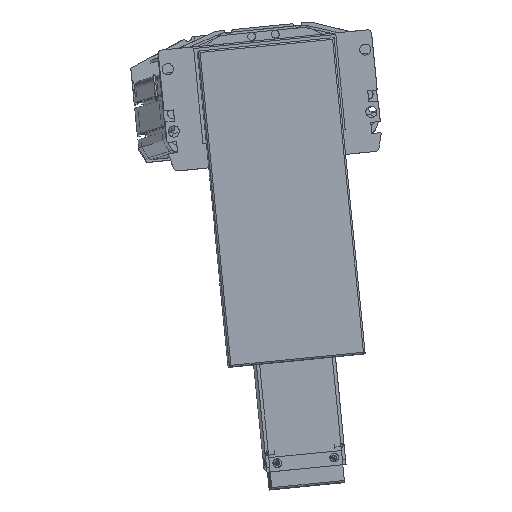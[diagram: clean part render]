
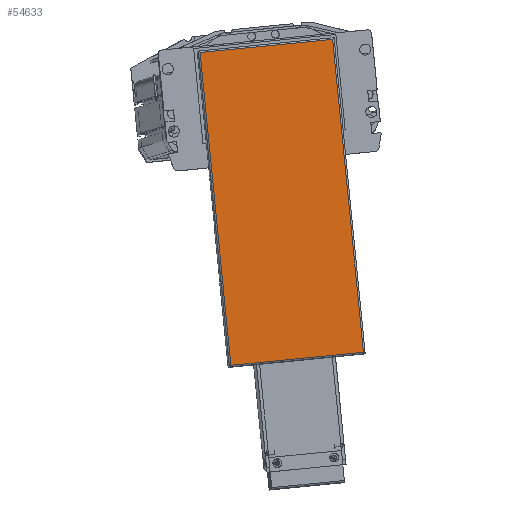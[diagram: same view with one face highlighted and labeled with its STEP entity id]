
A CAD part, top view. The second image highlights one B-rep face of the part: STEP entity #54633.
In plain terms, the highlighted planar face has unit normal (0.017, 0.003, 1) as drawn and (0, 0, 1) by its records, which use the part's own axes.
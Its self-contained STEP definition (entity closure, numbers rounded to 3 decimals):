
#19085 = ORIENTED_EDGE ( 'NONE', *, *, #27322, .T. ) ;
#27265 = VERTEX_POINT ( 'NONE', #52067 ) ;
#27291 = VERTEX_POINT ( 'NONE', #52092 ) ;
#27296 = VERTEX_POINT ( 'NONE', #52115 ) ;
#27298 = EDGE_CURVE ( 'NONE', #27265, #27299, #52117, .T. ) ;
#27299 = VERTEX_POINT ( 'NONE', #52107 ) ;
#27322 = EDGE_CURVE ( 'NONE', #27299, #27296, #52170, .T. ) ;
#27325 = EDGE_CURVE ( 'NONE', #27291, #27265, #52121, .T. ) ;
#27350 = EDGE_CURVE ( 'NONE', #27296, #27291, #52192, .T. ) ;
#27405 = ORIENTED_EDGE ( 'NONE', *, *, #27325, .T. ) ;
#27418 = ORIENTED_EDGE ( 'NONE', *, *, #27350, .T. ) ;
#27479 = ORIENTED_EDGE ( 'NONE', *, *, #27298, .T. ) ;
#52067 = CARTESIAN_POINT ( 'NONE',  ( 41.95, 72.75, 44. ) ) ;
#52092 = CARTESIAN_POINT ( 'NONE',  ( 41.95, -125.25, 44. ) ) ;
#52105 = DIRECTION ( 'NONE',  ( -1., 0., 0. ) ) ;
#52106 = VECTOR ( 'NONE', #52105, 1000. ) ;
#52107 = CARTESIAN_POINT ( 'NONE',  ( -41.95, 72.75, 44. ) ) ;
#52114 = CARTESIAN_POINT ( 'NONE',  ( -42.95, 72.75, 44. ) ) ;
#52115 = CARTESIAN_POINT ( 'NONE',  ( -41.95, -125.25, 44. ) ) ;
#52117 = LINE ( 'NONE', #52114, #52106 ) ;
#52121 = LINE ( 'NONE', #52161, #52158 ) ;
#52157 = DIRECTION ( 'NONE',  ( 0., 1., 0. ) ) ;
#52158 = VECTOR ( 'NONE', #52157, 1000. ) ;
#52161 = CARTESIAN_POINT ( 'NONE',  ( 41.95, -126.25, 44. ) ) ;
#52167 = DIRECTION ( 'NONE',  ( 0., -1., 0. ) ) ;
#52168 = VECTOR ( 'NONE', #52167, 1000. ) ;
#52169 = CARTESIAN_POINT ( 'NONE',  ( -41.95, -126.25, 44. ) ) ;
#52170 = LINE ( 'NONE', #52169, #52168 ) ;
#52189 = DIRECTION ( 'NONE',  ( 1., 0., 0. ) ) ;
#52190 = VECTOR ( 'NONE', #52189, 1000. ) ;
#52191 = CARTESIAN_POINT ( 'NONE',  ( -42.95, -125.25, 44. ) ) ;
#52192 = LINE ( 'NONE', #52191, #52190 ) ;
#54629 = EDGE_LOOP ( 'NONE', ( #27418, #27405, #27479, #19085 ) ) ;
#54633 = ADVANCED_FACE ( 'NONE', ( #59597 ), #59596, .T. ) ;
#59586 = AXIS2_PLACEMENT_3D ( 'NONE', #59592, #59600, #59599 ) ;
#59592 = CARTESIAN_POINT ( 'NONE',  ( -42.95, -126.25, 44. ) ) ;
#59596 = PLANE ( 'NONE',  #59586 ) ;
#59597 = FACE_OUTER_BOUND ( 'NONE', #54629, .T. ) ;
#59599 = DIRECTION ( 'NONE',  ( 1., 0., 0. ) ) ;
#59600 = DIRECTION ( 'NONE',  ( 0., 0., 1. ) ) ;
